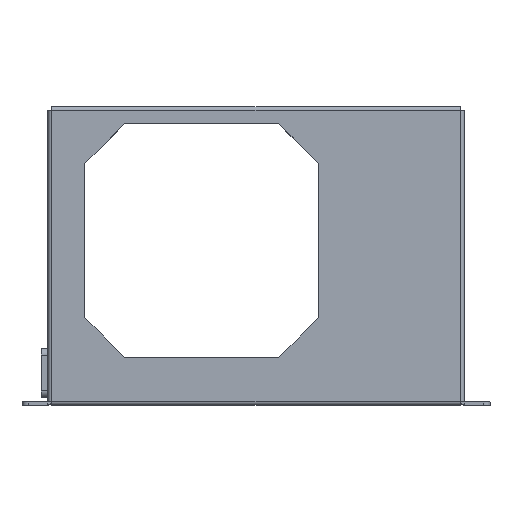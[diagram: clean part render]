
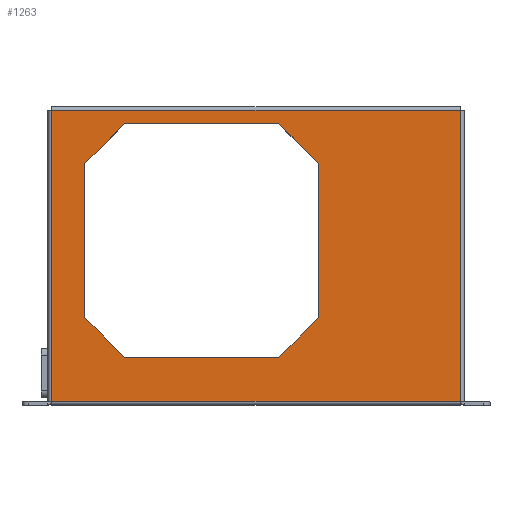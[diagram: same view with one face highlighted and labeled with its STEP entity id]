
A CAD part, top view. The second image highlights one B-rep face of the part: STEP entity #1263.
In plain terms, the highlighted planar face has unit normal (0, 0, 1).
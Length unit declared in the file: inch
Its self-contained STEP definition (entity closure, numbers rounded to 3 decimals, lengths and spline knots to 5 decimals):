
#33 = FACE_BOUND ( 'NONE', #655, .T. ) ;
#101 = ORIENTED_EDGE ( 'NONE', *, *, #1824, .F. ) ;
#119 = VERTEX_POINT ( 'NONE', #505 ) ;
#163 = CARTESIAN_POINT ( 'NONE',  ( 0.438, 2.545, 0. ) ) ;
#306 = DIRECTION ( 'NONE',  ( -1., 0., 0. ) ) ;
#387 = LINE ( 'NONE', #4487, #1523 ) ;
#391 = VERTEX_POINT ( 'NONE', #2673 ) ;
#400 = LINE ( 'NONE', #985, #5684 ) ;
#505 = CARTESIAN_POINT ( 'NONE',  ( -3.296, 1.779, 0. ) ) ;
#643 = CARTESIAN_POINT ( 'NONE',  ( 1.204, -1.189, 0. ) ) ;
#655 = EDGE_LOOP ( 'NONE', ( #1503, #2125, #1008, #101, #4384, #3795, #2139, #1750 ) ) ;
#842 = VECTOR ( 'NONE', #5324, 39.37008 ) ;
#870 = VERTEX_POINT ( 'NONE', #2822 ) ;
#887 = EDGE_CURVE ( 'NONE', #5444, #5176, #3555, .T. ) ;
#894 = CARTESIAN_POINT ( 'NONE',  ( 0.438, -1.955, 0. ) ) ;
#985 = CARTESIAN_POINT ( 'NONE',  ( -2.53, -1.955, 0. ) ) ;
#1008 = ORIENTED_EDGE ( 'NONE', *, *, #887, .F. ) ;
#1021 = VECTOR ( 'NONE', #5292, 39.37008 ) ;
#1048 = CARTESIAN_POINT ( 'NONE',  ( -2.53, 2.545, 0. ) ) ;
#1058 = DIRECTION ( 'NONE',  ( 0., -1., 0. ) ) ;
#1137 = DIRECTION ( 'NONE',  ( 0., 1., 0. ) ) ;
#1263 = ADVANCED_FACE ( 'NONE', ( #33, #5013 ), #5017, .F. ) ;
#1437 = DIRECTION ( 'NONE',  ( 0.707, 0.707, 0. ) ) ;
#1461 = CARTESIAN_POINT ( 'NONE',  ( -3.935, 2.804, 0. ) ) ;
#1503 = ORIENTED_EDGE ( 'NONE', *, *, #5794, .F. ) ;
#1523 = VECTOR ( 'NONE', #2411, 39.37008 ) ;
#1526 = CARTESIAN_POINT ( 'NONE',  ( 1.204, 1.779, 0. ) ) ;
#1664 = CARTESIAN_POINT ( 'NONE',  ( 3.935, -2.804, 0. ) ) ;
#1750 = ORIENTED_EDGE ( 'NONE', *, *, #5392, .F. ) ;
#1776 = EDGE_CURVE ( 'NONE', #5176, #119, #2499, .T. ) ;
#1824 = EDGE_CURVE ( 'NONE', #2328, #5444, #5633, .T. ) ;
#1875 = ORIENTED_EDGE ( 'NONE', *, *, #4065, .T. ) ;
#2022 = CARTESIAN_POINT ( 'NONE',  ( 0.438, -1.955, 0. ) ) ;
#2041 = DIRECTION ( 'NONE',  ( 1., 0., 0. ) ) ;
#2080 = LINE ( 'NONE', #2703, #3681 ) ;
#2125 = ORIENTED_EDGE ( 'NONE', *, *, #1776, .F. ) ;
#2139 = ORIENTED_EDGE ( 'NONE', *, *, #3665, .F. ) ;
#2216 = VERTEX_POINT ( 'NONE', #5632 ) ;
#2306 = CARTESIAN_POINT ( 'NONE',  ( -2.53, 2.545, 0. ) ) ;
#2328 = VERTEX_POINT ( 'NONE', #1526 ) ;
#2411 = DIRECTION ( 'NONE',  ( 0., 1., 0. ) ) ;
#2446 = DIRECTION ( 'NONE',  ( -1., 0., 0. ) ) ;
#2485 = DIRECTION ( 'NONE',  ( 1., 0., 0. ) ) ;
#2499 = LINE ( 'NONE', #5799, #1021 ) ;
#2554 = VECTOR ( 'NONE', #4752, 39.37008 ) ;
#2599 = ORIENTED_EDGE ( 'NONE', *, *, #6569, .T. ) ;
#2673 = CARTESIAN_POINT ( 'NONE',  ( 1.204, -1.189, 0. ) ) ;
#2697 = VERTEX_POINT ( 'NONE', #1461 ) ;
#2703 = CARTESIAN_POINT ( 'NONE',  ( -3.935, 2.804, 0. ) ) ;
#2718 = LINE ( 'NONE', #894, #3111 ) ;
#2822 = CARTESIAN_POINT ( 'NONE',  ( 3.935, 2.804, 0. ) ) ;
#2911 = AXIS2_PLACEMENT_3D ( 'NONE', #2949, #5523, #2446 ) ;
#2949 = CARTESIAN_POINT ( 'NONE',  ( 0., 0., 0. ) ) ;
#2980 = CARTESIAN_POINT ( 'NONE',  ( -3.935, -2.804, 0. ) ) ;
#2986 = EDGE_CURVE ( 'NONE', #4004, #4193, #5140, .T. ) ;
#3111 = VECTOR ( 'NONE', #1437, 39.37008 ) ;
#3163 = VECTOR ( 'NONE', #306, 39.37008 ) ;
#3512 = LINE ( 'NONE', #4761, #842 ) ;
#3555 = LINE ( 'NONE', #2306, #3163 ) ;
#3662 = DIRECTION ( 'NONE',  ( -1., 0., 0. ) ) ;
#3665 = EDGE_CURVE ( 'NONE', #2216, #4142, #400, .T. ) ;
#3681 = VECTOR ( 'NONE', #3662, 39.37008 ) ;
#3708 = VECTOR ( 'NONE', #6339, 39.37008 ) ;
#3774 = VECTOR ( 'NONE', #2041, 39.37008 ) ;
#3795 = ORIENTED_EDGE ( 'NONE', *, *, #5672, .F. ) ;
#3837 = CARTESIAN_POINT ( 'NONE',  ( -3.935, -2.804, 0. ) ) ;
#3849 = VECTOR ( 'NONE', #1137, 39.37008 ) ;
#4004 = VERTEX_POINT ( 'NONE', #3837 ) ;
#4065 = EDGE_CURVE ( 'NONE', #4193, #870, #387, .T. ) ;
#4142 = VERTEX_POINT ( 'NONE', #2022 ) ;
#4193 = VERTEX_POINT ( 'NONE', #1664 ) ;
#4272 = ORIENTED_EDGE ( 'NONE', *, *, #2986, .T. ) ;
#4282 = CARTESIAN_POINT ( 'NONE',  ( 0.438, 2.545, 0. ) ) ;
#4384 = ORIENTED_EDGE ( 'NONE', *, *, #6476, .F. ) ;
#4487 = CARTESIAN_POINT ( 'NONE',  ( 3.935, -2.804, 0. ) ) ;
#4586 = CARTESIAN_POINT ( 'NONE',  ( -3.296, -1.189, 0. ) ) ;
#4649 = CARTESIAN_POINT ( 'NONE',  ( -3.296, -1.189, 0. ) ) ;
#4707 = CARTESIAN_POINT ( 'NONE',  ( -3.296, -1.189, 0. ) ) ;
#4752 = DIRECTION ( 'NONE',  ( 0.707, -0.707, 0. ) ) ;
#4761 = CARTESIAN_POINT ( 'NONE',  ( -3.935, -2.804, 0. ) ) ;
#5013 = FACE_OUTER_BOUND ( 'NONE', #5511, .T. ) ;
#5017 = PLANE ( 'NONE',  #2911 ) ;
#5056 = LINE ( 'NONE', #4707, #2554 ) ;
#5140 = LINE ( 'NONE', #2980, #3774 ) ;
#5176 = VERTEX_POINT ( 'NONE', #1048 ) ;
#5292 = DIRECTION ( 'NONE',  ( -0.707, -0.707, 0. ) ) ;
#5324 = DIRECTION ( 'NONE',  ( 0., -1., 0. ) ) ;
#5392 = EDGE_CURVE ( 'NONE', #5979, #2216, #5056, .T. ) ;
#5436 = EDGE_CURVE ( 'NONE', #870, #2697, #2080, .T. ) ;
#5444 = VERTEX_POINT ( 'NONE', #163 ) ;
#5511 = EDGE_LOOP ( 'NONE', ( #1875, #5535, #2599, #4272 ) ) ;
#5523 = DIRECTION ( 'NONE',  ( 0., 0., -1. ) ) ;
#5535 = ORIENTED_EDGE ( 'NONE', *, *, #5436, .T. ) ;
#5632 = CARTESIAN_POINT ( 'NONE',  ( -2.53, -1.955, 0. ) ) ;
#5633 = LINE ( 'NONE', #4282, #3708 ) ;
#5672 = EDGE_CURVE ( 'NONE', #4142, #391, #2718, .T. ) ;
#5684 = VECTOR ( 'NONE', #2485, 39.37008 ) ;
#5767 = LINE ( 'NONE', #643, #3849 ) ;
#5794 = EDGE_CURVE ( 'NONE', #119, #5979, #6498, .T. ) ;
#5799 = CARTESIAN_POINT ( 'NONE',  ( -3.296, 1.779, 0. ) ) ;
#5979 = VERTEX_POINT ( 'NONE', #4649 ) ;
#6339 = DIRECTION ( 'NONE',  ( -0.707, 0.707, 0. ) ) ;
#6476 = EDGE_CURVE ( 'NONE', #391, #2328, #5767, .T. ) ;
#6498 = LINE ( 'NONE', #4586, #6582 ) ;
#6569 = EDGE_CURVE ( 'NONE', #2697, #4004, #3512, .T. ) ;
#6582 = VECTOR ( 'NONE', #1058, 39.37008 ) ;
